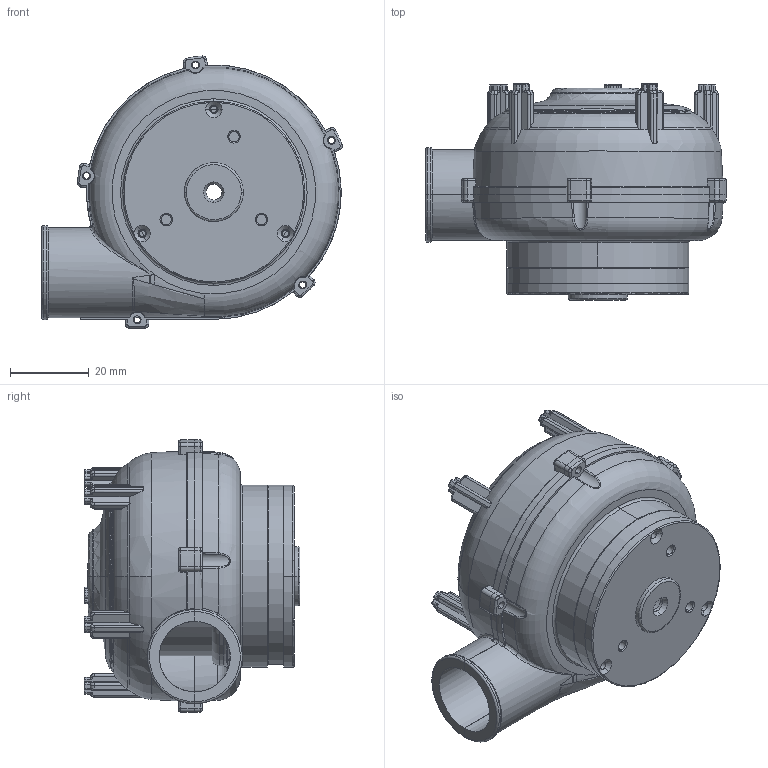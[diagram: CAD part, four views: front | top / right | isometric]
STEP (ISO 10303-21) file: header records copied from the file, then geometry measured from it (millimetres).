
FILE_DESCRIPTION((''),'2;1');
FILE_NAME('000_ASM','2025-06-11T09:56:06',('pc'),(''),'CREO PARAMETRIC BY PTC INC, 2018050','CREO PARAMETRIC BY PTC INC, 2018050','');
FILE_SCHEMA(('CONFIG_CONTROL_DESIGN','GEOMETRIC_VALIDATION_PROPERTIES_MIM'));
Length unit declared in the file: millimetre
Products named in the file (8): PRT0001-C; 000_31_14; 00_47_45-99; 0002_ASM; H-0935-ALL_ASM_1_ASM_6_ASM_ASM__ASM; 7060DJ_ASM; _-20001; 000_ASM
Assembly tree (7 placements, depth 5):
  000_ASM
    PRT0001-C
    7060DJ_ASM
      H-0935-ALL_ASM_1_ASM_6_ASM_ASM__ASM
        0002_ASM
          000_31_14
          00_47_45-99
    _-20001
Bounding box: 76.49 x 54.95 x 69.26 mm (x, y, z)
Volume: 50776.5 mm3; surface area: 45231.9 mm2
Topology: 4 solids, 5 shells, 1065 faces, 2775 edges, 1735 vertices
Faces by surface type: cylinder 439, plane 284, torus 121, bspline 115, cone 78, revolution 25, sphere 2, extrusion 1
Entity records: 48542 total; most frequent: CARTESIAN_POINT 12653, ORIENTED_EDGE 5526, DIRECTION 5364, EDGE_CURVE 2763, PRESENTATION_STYLE_ASSIGNMENT 2387, STYLED_ITEM 2387, AXIS2_PLACEMENT_3D 2148, CURVE_STYLE 1747
